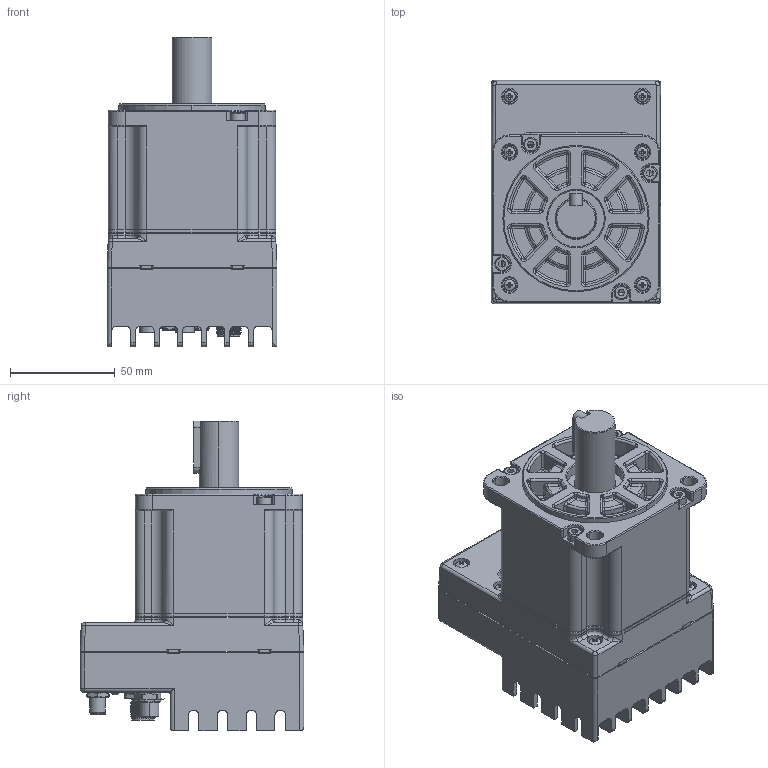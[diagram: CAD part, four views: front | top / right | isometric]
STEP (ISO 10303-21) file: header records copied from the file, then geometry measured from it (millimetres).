
FILE_DESCRIPTION (( 'STEP AP214' ), '1' );
FILE_NAME ('IM1-80SX3X5XX20000.STEP', '2024-02-15T13:41:05', ( '' ), ( '' ), 'SwSTEP 2.0', 'SolidWorks 2020', '' );
FILE_SCHEMA (( 'AUTOMOTIVE_DESIGN' ));
Length unit declared in the file: millimetre
Products named in the file (1): IM1-80SX3X5XX20000
Bounding box: 81.3 x 107 x 148.25 mm (x, y, z)
Surface area: 74497 mm2 (no closed solid volume)
Topology: 0 solids, 81 shells, 1438 faces, 5415 edges, 3979 vertices
Faces by surface type: plane 532, cylinder 515, cone 146, torus 138, bspline 58, sphere 49
Full cylindrical faces by diameter (mm): 0.5 x12, 1.5 x4, 1.6 x1, 7 x2, 7.5 x6, 9.9 x1, 10 x2, 10.7 x2, 13.5 x2, 18 x1
Entity records: 83449 total; most frequent: CARTESIAN_POINT 23468, DIRECTION 9104, ORIENTED_EDGE 8946, EDGE_CURVE 5273, VERTEX_POINT 3960, AXIS2_PLACEMENT_3D 3442, LINE 2220, VECTOR 2220
